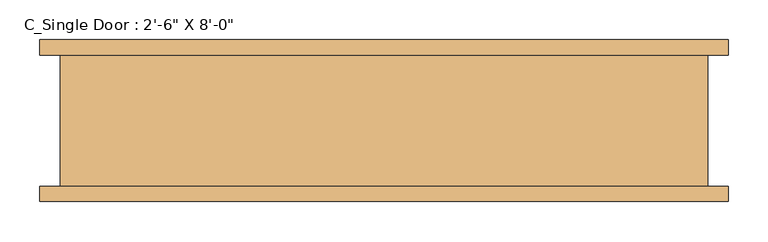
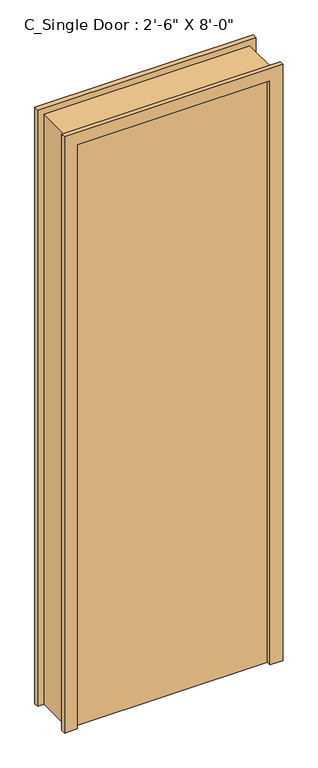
"""IFC4 building model written with IfcOpenShell, lengths in millimetres: door geometry."""

import ifcopenshell
import ifcopenshell.guid

model = None  # the IFC model being written
_history = None  # IfcOwnerHistory: only IFC2X3 demands one
_inside = {}  # id of a spatial element -> (the spatial element, [elements in it])
_under = {}  # id of a project, library or spatial element -> (it, [spatial elements below it])
_declared = {}  # id of a project -> (the project, [libraries it declares])
_typed = {}  # id of a type object -> (the type object, [elements of that type])
_made_of = {}  # id of a material, layer set ... -> (it, [elements and type objects made of it])


def new_model(schema):
    """Start an empty IFC model of exactly this schema.

    Asked for "IFC4X3", IfcOpenShell would pick the latest addendum, in which some entities
    have other attributes; the version numbers below select the first issue.
    IFC2X3 requires an IfcOwnerHistory on every rooted entity: one is made here for all.
    """
    global model, _history
    if schema == "IFC4X3":
        model = ifcopenshell.file(schema_version=(4, 3, 0, 0))
    else:
        model = ifcopenshell.file(schema=schema)
    _inside.clear()
    _under.clear()
    _declared.clear()
    _typed.clear()
    _made_of.clear()
    _history = None
    if model.schema == "IFC2X3":
        org = make("IfcOrganization", Name="unknown")
        user = make(
            "IfcPersonAndOrganization",
            ThePerson=make("IfcPerson", FamilyName="unknown"),
            TheOrganization=org,
        )
        app = make(
            "IfcApplication",
            ApplicationDeveloper=org,
            Version="unknown",
            ApplicationFullName="unknown",
            ApplicationIdentifier="unknown",
        )
        _history = make(
            "IfcOwnerHistory",
            OwningUser=user,
            OwningApplication=app,
            ChangeAction="ADDED",
            CreationDate=0,
        )
    return model


def make(cls, **values):
    """One entity of the class cls with the attributes given. An attribute that is None is left unset."""
    return model.create_entity(
        cls, **{name: value for name, value in values.items() if value is not None}
    )


def rooted(cls, **values):
    """An entity with a GlobalId (a new one), such as an element, a storey or a relation."""
    return make(cls, GlobalId=ifcopenshell.guid.new(), OwnerHistory=_history, **values)


def si_unit(unit_type, name, prefix=None):
    """IfcSIUnit, for example si_unit("LENGTHUNIT", "METRE", prefix="MILLI")."""
    return make("IfcSIUnit", UnitType=unit_type, Prefix=prefix, Name=name)


def assignment(units):
    """IfcUnitAssignment: the units of a project."""
    return None if units is None else make("IfcUnitAssignment", Units=units)


def point(xyz):
    """IfcCartesianPoint."""
    return None if xyz is None else make("IfcCartesianPoint", Coordinates=xyz)


def direction(xyz):
    """IfcDirection."""
    return None if xyz is None else make("IfcDirection", DirectionRatios=xyz)


def frame(location, z_axis=None, x_axis=None):
    """IfcAxis2Placement3D, a coordinate frame: its origin and axes. An axis left out is left unset."""
    return make(
        "IfcAxis2Placement3D",
        Location=point(location),
        Axis=direction(z_axis),
        RefDirection=direction(x_axis),
    )


def origin():
    """The frame at (0, 0, 0) with its axes left unset."""
    return frame((0.0, 0.0, 0.0))


def origin_with_axes():
    """The frame at (0, 0, 0) with the z axis (0, 0, 1) and the x axis (1, 0, 0) written out."""
    return frame((0.0, 0.0, 0.0), z_axis=(0.0, 0.0, 1.0), x_axis=(1.0, 0.0, 0.0))


def place(relative_to, where):
    """IfcLocalPlacement: puts the frame where relative to a parent placement (None: the world)."""
    return make(
        "IfcLocalPlacement", PlacementRelTo=relative_to, RelativePlacement=where
    )


def context(
    kind, dimensions, precision=None, world=None, true_north=None, identifier=None
):
    """IfcGeometricRepresentationContext, for example the 3D "Model" context."""
    return make(
        "IfcGeometricRepresentationContext",
        ContextIdentifier=identifier,
        ContextType=kind,
        CoordinateSpaceDimension=dimensions,
        Precision=precision,
        WorldCoordinateSystem=world,
        TrueNorth=true_north,
    )


def project(units=None, contexts=None):
    """IfcProject with its units and contexts."""
    return rooted(
        "IfcProject",
        Name="project",
        RepresentationContexts=contexts,
        UnitsInContext=assignment(units),
    )


def spatial(cls, under=None, at=None, **own):
    """A site, building, storey or space (cls), placed at a placement, below another one or the project."""
    s = rooted(cls, ObjectPlacement=at, **own)
    if under is not None:
        _under.setdefault(under.id(), (under, []))[1].append(s)
    return s


def polyline(points):
    """IfcPolyline through the points."""
    return make("IfcPolyline", Points=[point(p) for p in points])


def outline(outer, holes=None, kind="AREA"):
    """IfcArbitraryClosedProfileDef: a profile drawn as a closed curve; with holes, ...WithVoids."""
    if holes is None:
        return make("IfcArbitraryClosedProfileDef", ProfileType=kind, OuterCurve=outer)
    return make(
        "IfcArbitraryProfileDefWithVoids",
        ProfileType=kind,
        OuterCurve=outer,
        InnerCurves=holes,
    )


def extrude(swept, where, along, depth):
    """IfcExtrudedAreaSolid: the profile swept, set in the frame where, extruded along a direction by depth."""
    return make(
        "IfcExtrudedAreaSolid",
        SweptArea=swept,
        Position=where,
        ExtrudedDirection=direction(along),
        Depth=depth,
    )


def shape(context_of_items, identifier, shape_type, items):
    """IfcShapeRepresentation: the items that make up one representation, for example the "Body"."""
    return make(
        "IfcShapeRepresentation",
        ContextOfItems=context_of_items,
        RepresentationIdentifier=identifier,
        RepresentationType=shape_type,
        Items=items,
    )


def source(mapping_origin, context_of_items, identifier, shape_type, items):
    """IfcRepresentationMap: a shape defined once, which mapped items show again and again."""
    return make(
        "IfcRepresentationMap",
        MappingOrigin=mapping_origin,
        MappedRepresentation=shape(context_of_items, identifier, shape_type, items),
    )


def transform(
    local_origin,
    x_axis=None,
    y_axis=None,
    z_axis=None,
    scale=None,
    scale2=None,
    scale3=None,
    uniform=True,
):
    """IfcCartesianTransformationOperator3D, or its non-uniform kind. x_axis, y_axis, z_axis: its Axis1, 2, 3."""
    if uniform:
        return make(
            "IfcCartesianTransformationOperator3D",
            Axis1=direction(x_axis),
            Axis2=direction(y_axis),
            LocalOrigin=point(local_origin),
            Scale=scale,
            Axis3=direction(z_axis),
        )
    return make(
        "IfcCartesianTransformationOperator3DnonUniform",
        Axis1=direction(x_axis),
        Axis2=direction(y_axis),
        LocalOrigin=point(local_origin),
        Scale=scale,
        Axis3=direction(z_axis),
        Scale2=scale2,
        Scale3=scale3,
    )


def mapped(mapping_source, mapping_target):
    """IfcMappedItem: shows the shape of a source again, moved by a transform."""
    return make(
        "IfcMappedItem", MappingSource=mapping_source, MappingTarget=mapping_target
    )


def made_of(thing, what):
    """Note that an element or type object is made of a material, layer set ...; save() writes the relation."""
    if what is not None:
        _made_of.setdefault(what.id(), (what, []))[1].append(thing)
    return thing


def element(
    cls,
    number,
    at=None,
    inside=None,
    cuts=None,
    type_object=None,
    material=None,
    context=None,
    identifier="Body",
    shape_type=None,
    held_by="IfcProductDefinitionShape",
    body=None,
    shapes=None,
    **own,
):
    """One element of the class cls, such as IfcWall. Its Tag is "e" and its number.

    at: its placement. inside: the storey or other place that contains it. cuts: it is an
    opening in that element (IfcRelVoidsElement). A single representation is given by context,
    identifier, shape_type and body (its items); several are given by shapes. held_by: the class
    of the entity that holds the representations. save() writes the other relations.
    """
    e = rooted(cls, Tag="e%d" % number, ObjectPlacement=at, **own)
    if body is not None:
        shapes = [shape(context, identifier, shape_type, body)]
    if shapes is not None:
        e.Representation = make(held_by, Representations=shapes)
    if inside is not None:
        _inside.setdefault(inside.id(), (inside, []))[1].append(e)
    if cuts is not None:
        rooted(
            "IfcRelVoidsElement", RelatingBuildingElement=cuts, RelatedOpeningElement=e
        )
    if type_object is not None:
        _typed.setdefault(type_object.id(), (type_object, []))[1].append(e)
    return made_of(e, material)


def aggregate(whole, parts):
    """IfcRelAggregates: a whole, such as a stair, and the parts it consists of."""
    return rooted("IfcRelAggregates", RelatingObject=whole, RelatedObjects=parts)


def save(model, path):
    """Write the relations noted so far, then the file.

    IfcRelAggregates (storeys below a building ...), IfcRelContainedInSpatialStructure (elements
    in a storey), IfcRelDefinesByType, IfcRelAssociatesMaterial and IfcRelDeclares: one each for
    every whole, place, type object, material and project.
    """
    for whole, parts in _under.values():
        aggregate(whole, parts)
    for where, things in _inside.values():
        rooted(
            "IfcRelContainedInSpatialStructure",
            RelatedElements=things,
            RelatingStructure=where,
        )
    for kind, things in _typed.values():
        rooted("IfcRelDefinesByType", RelatedObjects=things, RelatingType=kind)
    for what, things in _made_of.values():
        rooted("IfcRelAssociatesMaterial", RelatedObjects=things, RelatingMaterial=what)
    for by, libraries in _declared.values():
        rooted("IfcRelDeclares", RelatingContext=by, RelatedDefinitions=libraries)
    model.write(path)


def door_c4ebe795(model_context):
    return source(origin(), model_context, "Body", "SweptSolid", [
        extrude(outline(polyline([(381.0, -82.55), (-381.0, -82.55), (-381.0, -31.75), (381.0, -31.75), (381.0, -82.55)])), origin_with_axes(), (0.0, 0.0, 1.0), 2438.4),
        extrude(outline(polyline([(2438.4, -381.0), (2438.4, 381.0), (0.0, 381.0), (0.0, 431.8), (2489.2, 431.8), (2489.2, -431.8), (0.0, -431.8), (0.0, -381.0), (2438.4, -381.0)])), frame((0.0, -101.6, 0.0), z_axis=(0.0, 1.0, 0.0), x_axis=(0.0, 0.0, 1.0)), (0.0, 0.0, 1.0), 19.05),
        extrude(outline(polyline([(2438.4, -381.0), (2438.4, 381.0), (0.0, 381.0), (0.0, 431.8), (2489.2, 431.8), (2489.2, -431.8), (0.0, -431.8), (0.0, -381.0), (2438.4, -381.0)])), frame((0.0, 82.55, 0.0), z_axis=(0.0, 1.0, 0.0), x_axis=(0.0, 0.0, 1.0)), (0.0, 0.0, 1.0), 19.05),
        extrude(outline(polyline([(0.0, -406.4), (0.0, -381.0), (2438.4, -381.0), (2438.4, 381.0), (0.0, 381.0), (0.0, 406.4), (2463.8, 406.4), (2463.8, -406.4), (0.0, -406.4)])), frame((0.0, -82.55, 0.0), z_axis=(0.0, 1.0, 0.0), x_axis=(0.0, 0.0, 1.0)), (0.0, 0.0, 1.0), 165.1),
    ])


if __name__ == "__main__":
    model = new_model("IFC4")
    model_context = context("Model", 3, world=origin())
    ifc_project = project(units=[si_unit("LENGTHUNIT", "METRE", prefix="MILLI")], contexts=[model_context])
    site = spatial("IfcSite", under=ifc_project)
    building = spatial("IfcBuilding", under=site)
    placement = place(None, origin())
    door_shape = door_c4ebe795(model_context)
    element("IfcDoor", 1, ObjectType="C_Single Door : 2'-6\" X 8'-0\"", at=placement, inside=building, context=model_context, shape_type="MappedRepresentation", body=[
        mapped(door_shape, transform((0.0, 0.0, 0.0), x_axis=(1.0, 0.0, 0.0), y_axis=(0.0, 1.0, 0.0), z_axis=(0.0, 0.0, 1.0))),
    ])
    save(model, "model.ifc")
